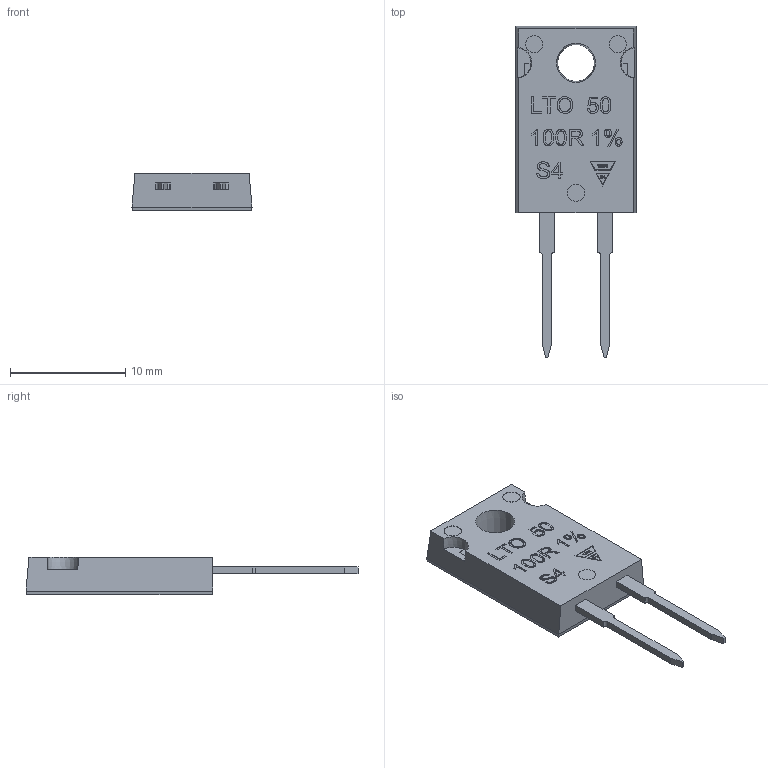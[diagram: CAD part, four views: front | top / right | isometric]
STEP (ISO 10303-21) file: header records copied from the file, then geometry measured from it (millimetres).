
FILE_DESCRIPTION(/* description */ ('Unknown'),/* implementation_level */ '2;1');
FILE_NAME(/* name */ '523395-13 LTO30 3D b',/* time_stamp */ '2025-01-29T16:49:59+01:00',/* author */ ('Unknown'),/* organization */ ('Unknown'),/* preprocessor_version */ 'ST-DEVELOPER v19.4',/* originating_system */ 'Solid Edge',/* authorisation */ 'Unknown');
FILE_SCHEMA (('AUTOMOTIVE_DESIGN {1 0 10303 214 3 1 1}'));
Length unit declared in the file: millimetre
Products named in the file (1): 523395-13 LTO30 3D
Bounding box: 10.44 x 28.87 x 3.22 mm (x, y, z)
Volume: 510.7 mm3; surface area: 596.3 mm2
Topology: 1 solids, 1 shells, 227 faces, 550 edges, 367 vertices
Faces by surface type: plane 183, bspline 28, cylinder 13, cone 3
Full cylindrical faces by diameter (mm): 1.5 x3
Entity records: 9159 total; most frequent: CARTESIAN_POINT 2473, ORIENTED_EDGE 1058, DIRECTION 893, EDGE_CURVE 529, LINE 421, VECTOR 421, VERTEX_POINT 366, EDGE_LOOP 291
